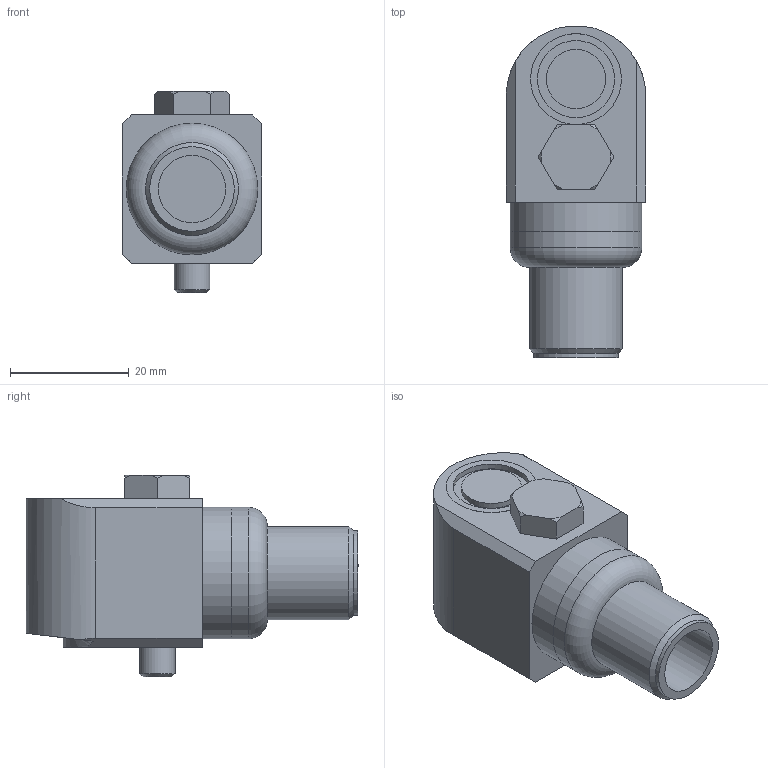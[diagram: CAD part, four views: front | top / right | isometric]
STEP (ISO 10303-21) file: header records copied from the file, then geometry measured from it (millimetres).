
FILE_DESCRIPTION(/* description */ (''),/* implementation_level */ '2;1');
FILE_NAME(/* name */ 'Z:\Engineering\Drawings\3D Library\Assemblies\Website\Premium Side\Compact\HS-170 Side 2 Pin MS\HS-170SXXX5002.stp',/* time_stamp */ '2023-03-20T15:01:16+00:00',/* author */ ('Ricardo.Peneda'),/* organization */ (''),/* preprocessor_version */ 'ST-DEVELOPER v18.1',/* originating_system */ 'Autodesk Inventor 2021',/* authorisation */ '');
FILE_SCHEMA (('AUTOMOTIVE_DESIGN { 1 0 10303 214 3 1 1 }'));
Length unit declared in the file: inch
Products named in the file (1): HS-170SXXX5002_Shrinkwrap_1
Bounding box: 23.5 x 56.02 x 34 mm (x, y, z)
Volume: 16187.3 mm3; surface area: 9742.2 mm2
Topology: 4 solids, 4 shells, 63 faces, 157 edges, 113 vertices
Faces by surface type: plane 34, cylinder 19, cone 9, torus 1
Full cylindrical faces by diameter (mm): 2.5 x1, 4.5 x1, 6 x2, 7 x1, 10 x1, 11.37 x1, 13 x1, 14.28 x1, 14.9 x1, 15.34 x1, 15.35 x1, 15.7 x1, 19 x1, 20 x1, 22.2 x2
Entity records: 2089 total; most frequent: CARTESIAN_POINT 387, DIRECTION 356, ORIENTED_EDGE 314, EDGE_CURVE 157, AXIS2_PLACEMENT_3D 149, VERTEX_POINT 113, EDGE_LOOP 78, CIRCLE 74
